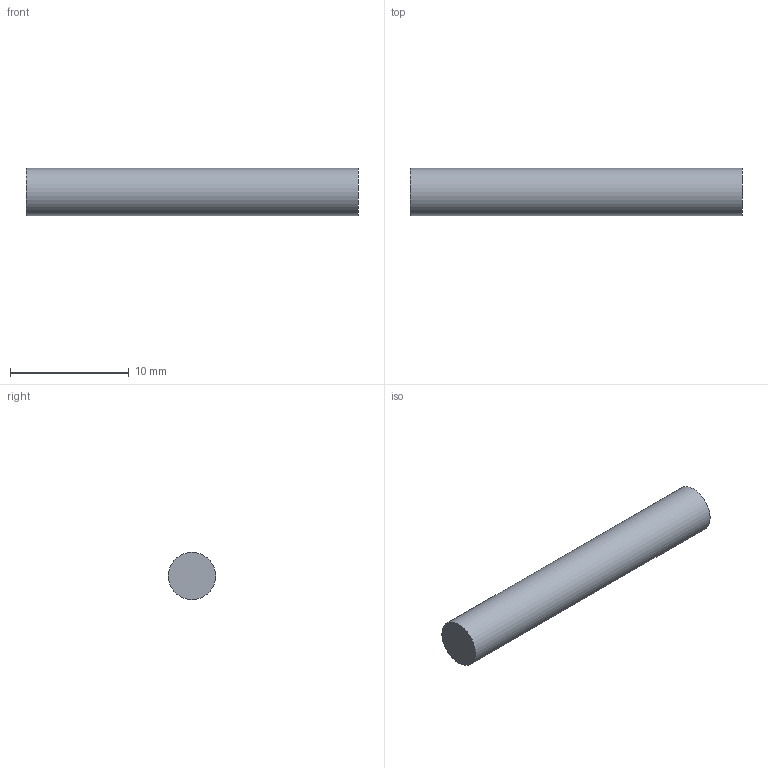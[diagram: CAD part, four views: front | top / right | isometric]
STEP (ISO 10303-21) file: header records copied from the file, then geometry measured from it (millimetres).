
FILE_DESCRIPTION(('Open CASCADE Model'),'2;1');
FILE_NAME('Open CASCADE Shape Model','2026-09-20T05:39:32',('Author'),( 'Open CASCADE'),'Open CASCADE STEP processor 7.9','Open CASCADE 7.9' ,'Unknown');
FILE_SCHEMA(('AUTOMOTIVE_DESIGN { 1 0 10303 214 1 1 1 1 }'));
Length unit declared in the file: millimetre
Products named in the file (1): Open CASCADE STEP translator 7.9 16
Bounding box: 28 x 4 x 4 mm (x, y, z)
Volume: 351.9 mm3; surface area: 377 mm2
Topology: 1 solids, 1 shells, 3 faces, 3 edges, 2 vertices
Faces by surface type: plane 2, cylinder 1
Full cylindrical faces by diameter (mm): 4 x1
Entity records: 108 total; most frequent: DIRECTION 19, CARTESIAN_POINT 15, AXIS2_PLACEMENT_3D 6, ORIENTED_EDGE 6, PCURVE 6, DEFINITIONAL_REPRESENTATION 6, LINE 5, VECTOR 5
